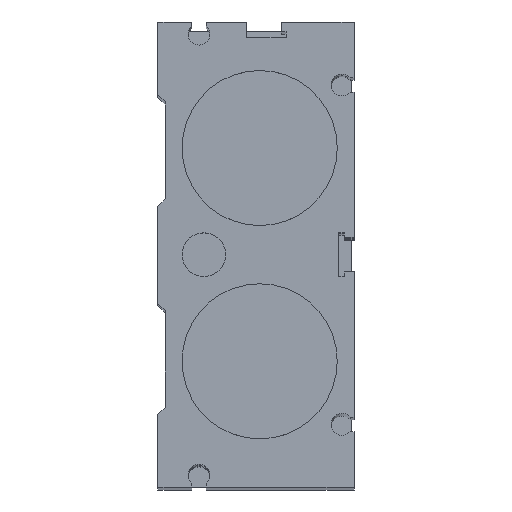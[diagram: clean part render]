
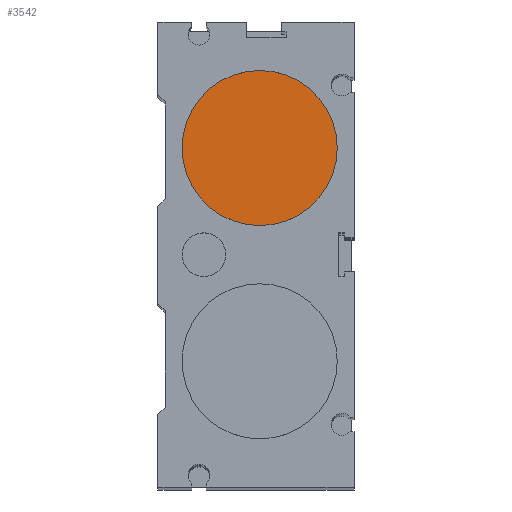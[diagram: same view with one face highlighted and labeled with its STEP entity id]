
A CAD part, top view. The second image highlights one B-rep face of the part: STEP entity #3542.
In plain terms, the highlighted planar face has unit normal (0, 0, 1).
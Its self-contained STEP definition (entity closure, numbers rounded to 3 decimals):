
#3511=CARTESIAN_POINT('',(16.0,22.0,588.0));
#3512=VERTEX_POINT('',#3511);
#3513=CARTESIAN_POINT('',(0.,22.0,588.0));
#3514=DIRECTION('',(0.0,0.0,1.0));
#3515=DIRECTION('',(-1.0,0.0,0.0));
#3516=AXIS2_PLACEMENT_3D('',#3513,#3514,#3515);
#3517=CIRCLE('',#3516,16.0);
#3518=EDGE_CURVE('',#3512,#3512,#3517,.T.);
#3534=CARTESIAN_POINT('',(0.,22.0,588.0));
#3535=DIRECTION('',(0.0,0.0,-1.0));
#3536=DIRECTION('',(-1.0,0.0,0.0));
#3537=AXIS2_PLACEMENT_3D('',#3534,#3535,#3536);
#3538=PLANE('',#3537);
#3539=ORIENTED_EDGE('',*,*,#3518,.T.);
#3540=EDGE_LOOP('',(#3539));
#3541=FACE_OUTER_BOUND('',#3540,.T.);
#3542=ADVANCED_FACE('',(#3541),#3538,.F.);
